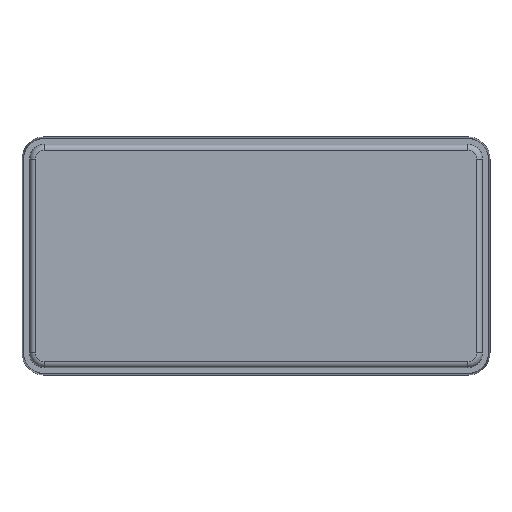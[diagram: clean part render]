
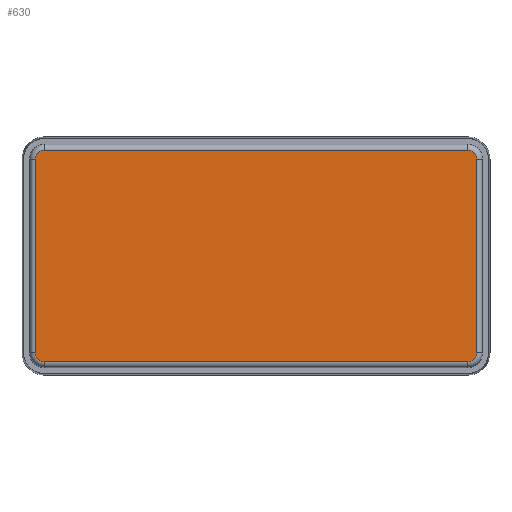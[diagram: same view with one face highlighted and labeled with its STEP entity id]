
A CAD part, front view. The second image highlights one B-rep face of the part: STEP entity #630.
In plain terms, the highlighted planar face has unit normal (0, -1, 0).
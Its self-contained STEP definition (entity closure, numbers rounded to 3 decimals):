
#67 = CARTESIAN_POINT ( 'NONE',  ( -37.25, -3., -16.35 ) ) ;
#78 = ORIENTED_EDGE ( 'NONE', *, *, #4068, .T. ) ;
#288 = EDGE_CURVE ( 'NONE', #1914, #4631, #2487, .T. ) ;
#312 = VERTEX_POINT ( 'NONE', #4139 ) ;
#389 = EDGE_CURVE ( 'NONE', #3953, #1914, #1565, .T. ) ;
#413 = CARTESIAN_POINT ( 'NONE',  ( 37.25, -3., -16.35 ) ) ;
#450 = ORIENTED_EDGE ( 'NONE', *, *, #4166, .T. ) ;
#452 = EDGE_CURVE ( 'NONE', #4631, #312, #4791, .T. ) ;
#505 = VECTOR ( 'NONE', #3696, 1000. ) ;
#523 = VECTOR ( 'NONE', #3875, 1000. ) ;
#630 = ADVANCED_FACE ( 'NONE', ( #2139 ), #3932, .T. ) ;
#950 = VERTEX_POINT ( 'NONE', #67 ) ;
#1057 = AXIS2_PLACEMENT_3D ( 'NONE', #3907, #1555, #4294 ) ;
#1169 = VERTEX_POINT ( 'NONE', #1192 ) ;
#1192 = CARTESIAN_POINT ( 'NONE',  ( -35.75, -3., -17.85 ) ) ;
#1256 = ORIENTED_EDGE ( 'NONE', *, *, #2467, .T. ) ;
#1443 = CARTESIAN_POINT ( 'NONE',  ( 35.75, -3., -17.85 ) ) ;
#1453 = CARTESIAN_POINT ( 'NONE',  ( 37.25, -3., 16.35 ) ) ;
#1524 = DIRECTION ( 'NONE',  ( 0., 0., -1. ) ) ;
#1548 = VECTOR ( 'NONE', #4449, 1000. ) ;
#1555 = DIRECTION ( 'NONE',  ( 0., -1., 0. ) ) ;
#1565 = LINE ( 'NONE', #1453, #3901 ) ;
#1706 = ORIENTED_EDGE ( 'NONE', *, *, #2444, .T. ) ;
#1840 = CARTESIAN_POINT ( 'NONE',  ( 37.25, -3., 16.35 ) ) ;
#1885 = CARTESIAN_POINT ( 'NONE',  ( -35.75, -3., 17.85 ) ) ;
#1914 = VERTEX_POINT ( 'NONE', #1840 ) ;
#2075 = DIRECTION ( 'NONE',  ( 0., -1., 0. ) ) ;
#2139 = FACE_OUTER_BOUND ( 'NONE', #2734, .T. ) ;
#2146 = ORIENTED_EDGE ( 'NONE', *, *, #4502, .T. ) ;
#2323 = CARTESIAN_POINT ( 'NONE',  ( -37.25, -3., 16.35 ) ) ;
#2329 = CARTESIAN_POINT ( 'NONE',  ( -35.75, -3., 16.35 ) ) ;
#2444 = EDGE_CURVE ( 'NONE', #2801, #950, #2790, .T. ) ;
#2467 = EDGE_CURVE ( 'NONE', #312, #2801, #2650, .T. ) ;
#2487 = CIRCLE ( 'NONE', #3592, 1.5 ) ;
#2650 = CIRCLE ( 'NONE', #4536, 1.5 ) ;
#2734 = EDGE_LOOP ( 'NONE', ( #1706, #2146, #450, #78, #4968, #4681, #4474, #1256 ) ) ;
#2753 = DIRECTION ( 'NONE',  ( 0., -1., 0. ) ) ;
#2790 = LINE ( 'NONE', #3096, #523 ) ;
#2801 = VERTEX_POINT ( 'NONE', #2323 ) ;
#2868 = AXIS2_PLACEMENT_3D ( 'NONE', #4340, #3701, #3201 ) ;
#3096 = CARTESIAN_POINT ( 'NONE',  ( -37.25, -3., -16.35 ) ) ;
#3120 = CIRCLE ( 'NONE', #4532, 1.5 ) ;
#3141 = DIRECTION ( 'NONE',  ( 0., 0., -1. ) ) ;
#3201 = DIRECTION ( 'NONE',  ( 0., 0., -1. ) ) ;
#3438 = DIRECTION ( 'NONE',  ( 0., 0., 1. ) ) ;
#3495 = VERTEX_POINT ( 'NONE', #1443 ) ;
#3592 = AXIS2_PLACEMENT_3D ( 'NONE', #4682, #3835, #1524 ) ;
#3696 = DIRECTION ( 'NONE',  ( -1., 0., 0. ) ) ;
#3701 = DIRECTION ( 'NONE',  ( 0., -1., 0. ) ) ;
#3835 = DIRECTION ( 'NONE',  ( 0., -1., 0. ) ) ;
#3875 = DIRECTION ( 'NONE',  ( 0., 0., -1. ) ) ;
#3901 = VECTOR ( 'NONE', #3438, 1000. ) ;
#3907 = CARTESIAN_POINT ( 'NONE',  ( -35.75, -3., -16.35 ) ) ;
#3932 = PLANE ( 'NONE',  #2868 ) ;
#3953 = VERTEX_POINT ( 'NONE', #413 ) ;
#4068 = EDGE_CURVE ( 'NONE', #3495, #3953, #3120, .T. ) ;
#4073 = CARTESIAN_POINT ( 'NONE',  ( 35.75, -3., -17.85 ) ) ;
#4139 = CARTESIAN_POINT ( 'NONE',  ( -35.75, -3., 17.85 ) ) ;
#4166 = EDGE_CURVE ( 'NONE', #1169, #3495, #4662, .T. ) ;
#4246 = CIRCLE ( 'NONE', #1057, 1.5 ) ;
#4294 = DIRECTION ( 'NONE',  ( 0., 0., -1. ) ) ;
#4314 = CARTESIAN_POINT ( 'NONE',  ( 35.75, -3., 17.85 ) ) ;
#4340 = CARTESIAN_POINT ( 'NONE',  ( -35.75, -3., 16.35 ) ) ;
#4404 = CARTESIAN_POINT ( 'NONE',  ( 35.75, -3., -16.35 ) ) ;
#4449 = DIRECTION ( 'NONE',  ( 1., 0., 0. ) ) ;
#4474 = ORIENTED_EDGE ( 'NONE', *, *, #452, .T. ) ;
#4502 = EDGE_CURVE ( 'NONE', #950, #1169, #4246, .T. ) ;
#4532 = AXIS2_PLACEMENT_3D ( 'NONE', #4404, #2075, #4787 ) ;
#4536 = AXIS2_PLACEMENT_3D ( 'NONE', #2329, #2753, #3141 ) ;
#4631 = VERTEX_POINT ( 'NONE', #4314 ) ;
#4662 = LINE ( 'NONE', #4073, #1548 ) ;
#4681 = ORIENTED_EDGE ( 'NONE', *, *, #288, .T. ) ;
#4682 = CARTESIAN_POINT ( 'NONE',  ( 35.75, -3., 16.35 ) ) ;
#4787 = DIRECTION ( 'NONE',  ( 0., 0., -1. ) ) ;
#4791 = LINE ( 'NONE', #1885, #505 ) ;
#4968 = ORIENTED_EDGE ( 'NONE', *, *, #389, .T. ) ;
